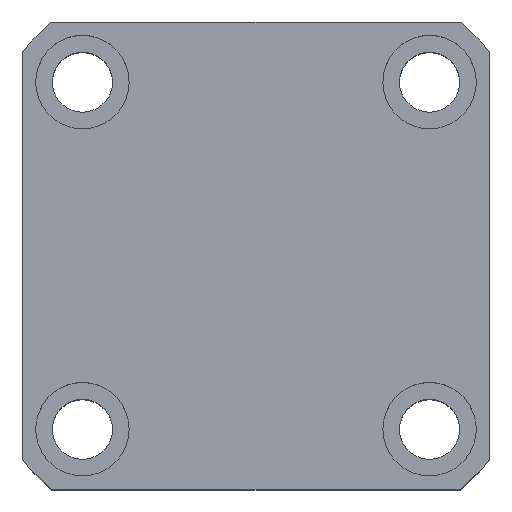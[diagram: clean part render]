
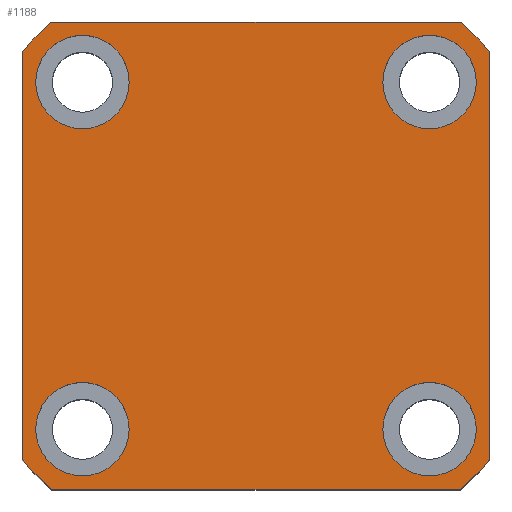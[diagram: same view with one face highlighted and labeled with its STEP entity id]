
A CAD part, top view. The second image highlights one B-rep face of the part: STEP entity #1188.
In plain terms, the highlighted planar face has unit normal (0, 0, 1).
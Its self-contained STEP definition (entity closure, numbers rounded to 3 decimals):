
#178 = DIRECTION ( 'NONE',  ( 0., 0., 1. ) ) ;
#195 = EDGE_CURVE ( 'NONE', #12440, #631, #3504, .T. ) ;
#202 = CARTESIAN_POINT ( 'NONE',  ( 0., 0., 65. ) ) ;
#207 = EDGE_CURVE ( 'NONE', #10601, #7060, #8683, .T. ) ;
#246 = PLANE ( 'NONE',  #4702 ) ;
#410 = CARTESIAN_POINT ( 'NONE',  ( 35., 35., 65. ) ) ;
#414 = DIRECTION ( 'NONE',  ( 1., 0., 0. ) ) ;
#428 = DIRECTION ( 'NONE',  ( 0., 0., 1. ) ) ;
#458 = EDGE_CURVE ( 'NONE', #12424, #6580, #2529, .T. ) ;
#631 = VERTEX_POINT ( 'NONE', #3393 ) ;
#653 = DIRECTION ( 'NONE',  ( 0., 0., 1. ) ) ;
#678 = AXIS2_PLACEMENT_3D ( 'NONE', #12916, #6670, #414 ) ;
#745 = DIRECTION ( 'NONE',  ( 0., 1., 0. ) ) ;
#903 = DIRECTION ( 'NONE',  ( 0., 0., 1. ) ) ;
#948 = DIRECTION ( 'NONE',  ( 1., 0., 0. ) ) ;
#1092 = VERTEX_POINT ( 'NONE', #13280 ) ;
#1097 = EDGE_CURVE ( 'NONE', #4651, #2651, #7870, .T. ) ;
#1188 = ADVANCED_FACE ( 'NONE', ( #12819, #2072, #7236, #10356, #4505 ), #246, .T. ) ;
#1206 = ORIENTED_EDGE ( 'NONE', *, *, #3384, .T. ) ;
#1400 = EDGE_LOOP ( 'NONE', ( #9334, #8994 ) ) ;
#1436 = VERTEX_POINT ( 'NONE', #3820 ) ;
#1759 = CARTESIAN_POINT ( 'NONE',  ( 0., 0., 65. ) ) ;
#1789 = VERTEX_POINT ( 'NONE', #6263 ) ;
#2072 = FACE_BOUND ( 'NONE', #1400, .T. ) ;
#2091 = VERTEX_POINT ( 'NONE', #13036 ) ;
#2107 = DIRECTION ( 'NONE',  ( 0., -1., 0. ) ) ;
#2333 = ORIENTED_EDGE ( 'NONE', *, *, #207, .T. ) ;
#2458 = AXIS2_PLACEMENT_3D ( 'NONE', #6683, #428, #7698 ) ;
#2529 = LINE ( 'NONE', #410, #10192 ) ;
#2543 = EDGE_CURVE ( 'NONE', #12569, #12429, #4157, .T. ) ;
#2651 = VERTEX_POINT ( 'NONE', #8356 ) ;
#2801 = DIRECTION ( 'NONE',  ( 1., 0., 0. ) ) ;
#3012 = VECTOR ( 'NONE', #12207, 1000. ) ;
#3056 = DIRECTION ( 'NONE',  ( 0., 0., 1. ) ) ;
#3109 = CARTESIAN_POINT ( 'NONE',  ( 35., 30.615, 65. ) ) ;
#3267 = EDGE_CURVE ( 'NONE', #631, #12440, #6428, .T. ) ;
#3330 = ORIENTED_EDGE ( 'NONE', *, *, #7301, .T. ) ;
#3384 = EDGE_CURVE ( 'NONE', #1789, #11820, #8179, .T. ) ;
#3393 = CARTESIAN_POINT ( 'NONE',  ( -33., 26., 65. ) ) ;
#3504 = CIRCLE ( 'NONE', #6499, 7. ) ;
#3663 = EDGE_CURVE ( 'NONE', #12429, #12569, #12457, .T. ) ;
#3820 = CARTESIAN_POINT ( 'NONE',  ( 19., 26., 65. ) ) ;
#3981 = CARTESIAN_POINT ( 'NONE',  ( 33., 26., 65. ) ) ;
#4144 = ORIENTED_EDGE ( 'NONE', *, *, #1097, .F. ) ;
#4157 = CIRCLE ( 'NONE', #4600, 7. ) ;
#4505 = FACE_OUTER_BOUND ( 'NONE', #6231, .T. ) ;
#4559 = CARTESIAN_POINT ( 'NONE',  ( 0., 0., 65. ) ) ;
#4600 = AXIS2_PLACEMENT_3D ( 'NONE', #12205, #5946, #13256 ) ;
#4619 = ORIENTED_EDGE ( 'NONE', *, *, #458, .T. ) ;
#4651 = VERTEX_POINT ( 'NONE', #10821 ) ;
#4702 = AXIS2_PLACEMENT_3D ( 'NONE', #202, #903, #948 ) ;
#4738 = CARTESIAN_POINT ( 'NONE',  ( -30.615, 35., 65. ) ) ;
#4933 = ORIENTED_EDGE ( 'NONE', *, *, #3267, .F. ) ;
#5222 = DIRECTION ( 'NONE',  ( 1., 0., 0. ) ) ;
#5273 = ORIENTED_EDGE ( 'NONE', *, *, #195, .F. ) ;
#5285 = EDGE_CURVE ( 'NONE', #1092, #12424, #12273, .T. ) ;
#5304 = CARTESIAN_POINT ( 'NONE',  ( -35., -30.615, 65. ) ) ;
#5532 = EDGE_CURVE ( 'NONE', #6580, #1789, #10974, .T. ) ;
#5590 = DIRECTION ( 'NONE',  ( 1., 0., 0. ) ) ;
#5653 = VERTEX_POINT ( 'NONE', #3981 ) ;
#5865 = CARTESIAN_POINT ( 'NONE',  ( -26., 26., 65. ) ) ;
#5903 = ORIENTED_EDGE ( 'NONE', *, *, #6990, .F. ) ;
#5920 = AXIS2_PLACEMENT_3D ( 'NONE', #6891, #653, #7916 ) ;
#5946 = DIRECTION ( 'NONE',  ( 0., 0., 1. ) ) ;
#5965 = CIRCLE ( 'NONE', #10107, 7. ) ;
#6122 = CARTESIAN_POINT ( 'NONE',  ( 19., -26., 65. ) ) ;
#6219 = CIRCLE ( 'NONE', #5920, 7. ) ;
#6231 = EDGE_LOOP ( 'NONE', ( #4619, #7038, #1206, #11785, #3330, #2333, #12748, #13372 ) ) ;
#6263 = CARTESIAN_POINT ( 'NONE',  ( 30.615, 35., 65. ) ) ;
#6273 = CARTESIAN_POINT ( 'NONE',  ( 33., -26., 65. ) ) ;
#6428 = CIRCLE ( 'NONE', #12736, 7. ) ;
#6437 = CARTESIAN_POINT ( 'NONE',  ( 26., 26., 65. ) ) ;
#6499 = AXIS2_PLACEMENT_3D ( 'NONE', #12872, #12912, #12955 ) ;
#6580 = VERTEX_POINT ( 'NONE', #3109 ) ;
#6670 = DIRECTION ( 'NONE',  ( 0., 0., 1. ) ) ;
#6683 = CARTESIAN_POINT ( 'NONE',  ( 26., -26., 65. ) ) ;
#6891 = CARTESIAN_POINT ( 'NONE',  ( 26., 26., 65. ) ) ;
#6909 = DIRECTION ( 'NONE',  ( 1., 0., 0. ) ) ;
#6990 = EDGE_CURVE ( 'NONE', #5653, #1436, #6219, .T. ) ;
#7012 = LINE ( 'NONE', #12472, #12590 ) ;
#7038 = ORIENTED_EDGE ( 'NONE', *, *, #5532, .T. ) ;
#7060 = VERTEX_POINT ( 'NONE', #8933 ) ;
#7236 = FACE_BOUND ( 'NONE', #10473, .T. ) ;
#7301 = EDGE_CURVE ( 'NONE', #2091, #10601, #7012, .T. ) ;
#7461 = DIRECTION ( 'NONE',  ( 1., 0., 0. ) ) ;
#7499 = CIRCLE ( 'NONE', #12903, 46.5 ) ;
#7695 = EDGE_CURVE ( 'NONE', #11820, #2091, #7499, .T. ) ;
#7698 = DIRECTION ( 'NONE',  ( 1., 0., 0. ) ) ;
#7850 = AXIS2_PLACEMENT_3D ( 'NONE', #13519, #13564, #10167 ) ;
#7870 = CIRCLE ( 'NONE', #12671, 7. ) ;
#7916 = DIRECTION ( 'NONE',  ( 1., 0., 0. ) ) ;
#8179 = LINE ( 'NONE', #10151, #3012 ) ;
#8356 = CARTESIAN_POINT ( 'NONE',  ( -19., -26., 65. ) ) ;
#8577 = LINE ( 'NONE', #12520, #11366 ) ;
#8683 = CIRCLE ( 'NONE', #7850, 46.5 ) ;
#8933 = CARTESIAN_POINT ( 'NONE',  ( -30.615, -35., 65. ) ) ;
#8994 = ORIENTED_EDGE ( 'NONE', *, *, #3663, .F. ) ;
#9003 = DIRECTION ( 'NONE',  ( 0., 0., 1. ) ) ;
#9174 = CARTESIAN_POINT ( 'NONE',  ( 35., -30.615, 65. ) ) ;
#9236 = CIRCLE ( 'NONE', #12032, 7. ) ;
#9257 = CARTESIAN_POINT ( 'NONE',  ( -26., -26., 65. ) ) ;
#9334 = ORIENTED_EDGE ( 'NONE', *, *, #2543, .F. ) ;
#9390 = ORIENTED_EDGE ( 'NONE', *, *, #10013, .F. ) ;
#9775 = AXIS2_PLACEMENT_3D ( 'NONE', #1759, #9003, #2801 ) ;
#10013 = EDGE_CURVE ( 'NONE', #2651, #4651, #9236, .T. ) ;
#10107 = AXIS2_PLACEMENT_3D ( 'NONE', #6437, #178, #7461 ) ;
#10151 = CARTESIAN_POINT ( 'NONE',  ( -35., 35., 65. ) ) ;
#10157 = EDGE_CURVE ( 'NONE', #7060, #1092, #8577, .T. ) ;
#10167 = DIRECTION ( 'NONE',  ( 1., 0., 0. ) ) ;
#10192 = VECTOR ( 'NONE', #745, 1000. ) ;
#10324 = DIRECTION ( 'NONE',  ( 1., 0., 0. ) ) ;
#10356 = FACE_BOUND ( 'NONE', #12121, .T. ) ;
#10473 = EDGE_LOOP ( 'NONE', ( #5903, #11139 ) ) ;
#10601 = VERTEX_POINT ( 'NONE', #5304 ) ;
#10687 = EDGE_CURVE ( 'NONE', #1436, #5653, #5965, .T. ) ;
#10821 = CARTESIAN_POINT ( 'NONE',  ( -33., -26., 65. ) ) ;
#10974 = CIRCLE ( 'NONE', #9775, 46.5 ) ;
#11127 = EDGE_LOOP ( 'NONE', ( #9390, #4144 ) ) ;
#11139 = ORIENTED_EDGE ( 'NONE', *, *, #10687, .F. ) ;
#11366 = VECTOR ( 'NONE', #5222, 1000. ) ;
#11451 = CARTESIAN_POINT ( 'NONE',  ( -26., -26., 65. ) ) ;
#11785 = ORIENTED_EDGE ( 'NONE', *, *, #7695, .T. ) ;
#11820 = VERTEX_POINT ( 'NONE', #4738 ) ;
#11842 = DIRECTION ( 'NONE',  ( 0., 0., 1. ) ) ;
#12032 = AXIS2_PLACEMENT_3D ( 'NONE', #9257, #3056, #10324 ) ;
#12047 = DIRECTION ( 'NONE',  ( 0., 0., 1. ) ) ;
#12092 = DIRECTION ( 'NONE',  ( 1., 0., 0. ) ) ;
#12121 = EDGE_LOOP ( 'NONE', ( #5273, #4933 ) ) ;
#12205 = CARTESIAN_POINT ( 'NONE',  ( 26., -26., 65. ) ) ;
#12207 = DIRECTION ( 'NONE',  ( -1., 0., 0. ) ) ;
#12273 = CIRCLE ( 'NONE', #678, 46.5 ) ;
#12424 = VERTEX_POINT ( 'NONE', #9174 ) ;
#12429 = VERTEX_POINT ( 'NONE', #6122 ) ;
#12440 = VERTEX_POINT ( 'NONE', #13433 ) ;
#12457 = CIRCLE ( 'NONE', #2458, 7. ) ;
#12472 = CARTESIAN_POINT ( 'NONE',  ( -35., 35., 65. ) ) ;
#12520 = CARTESIAN_POINT ( 'NONE',  ( -35., -35., 65. ) ) ;
#12569 = VERTEX_POINT ( 'NONE', #6273 ) ;
#12590 = VECTOR ( 'NONE', #2107, 1000. ) ;
#12671 = AXIS2_PLACEMENT_3D ( 'NONE', #11451, #12047, #12092 ) ;
#12736 = AXIS2_PLACEMENT_3D ( 'NONE', #5865, #13173, #6909 ) ;
#12748 = ORIENTED_EDGE ( 'NONE', *, *, #10157, .T. ) ;
#12819 = FACE_BOUND ( 'NONE', #11127, .T. ) ;
#12872 = CARTESIAN_POINT ( 'NONE',  ( -26., 26., 65. ) ) ;
#12903 = AXIS2_PLACEMENT_3D ( 'NONE', #4559, #11842, #5590 ) ;
#12912 = DIRECTION ( 'NONE',  ( 0., 0., 1. ) ) ;
#12916 = CARTESIAN_POINT ( 'NONE',  ( 0., 0., 65. ) ) ;
#12955 = DIRECTION ( 'NONE',  ( 1., 0., 0. ) ) ;
#13036 = CARTESIAN_POINT ( 'NONE',  ( -35., 30.615, 65. ) ) ;
#13173 = DIRECTION ( 'NONE',  ( 0., 0., 1. ) ) ;
#13256 = DIRECTION ( 'NONE',  ( 1., 0., 0. ) ) ;
#13280 = CARTESIAN_POINT ( 'NONE',  ( 30.615, -35., 65. ) ) ;
#13372 = ORIENTED_EDGE ( 'NONE', *, *, #5285, .T. ) ;
#13433 = CARTESIAN_POINT ( 'NONE',  ( -19., 26., 65. ) ) ;
#13519 = CARTESIAN_POINT ( 'NONE',  ( 0., 0., 65. ) ) ;
#13564 = DIRECTION ( 'NONE',  ( 0., 0., 1. ) ) ;
